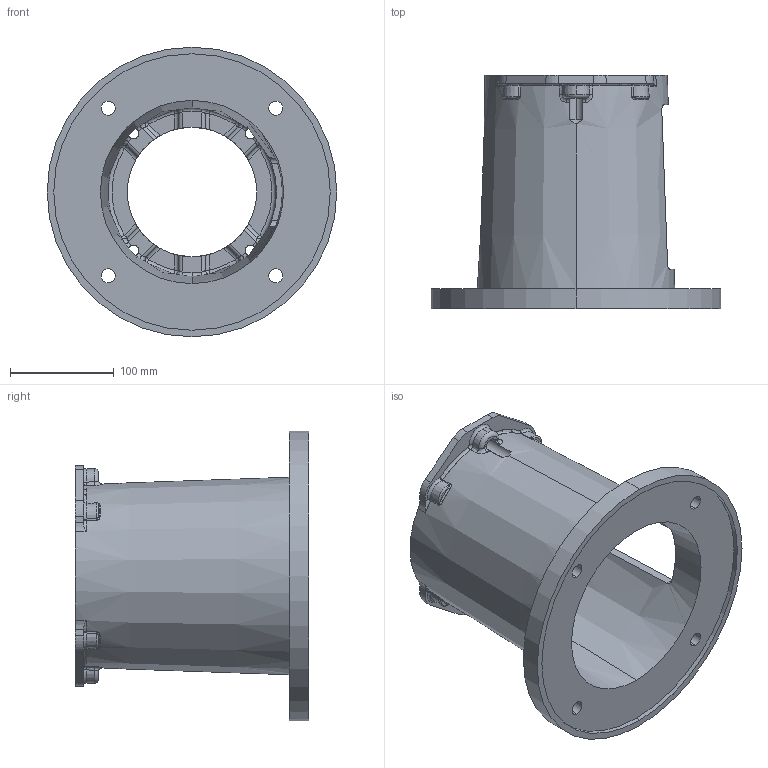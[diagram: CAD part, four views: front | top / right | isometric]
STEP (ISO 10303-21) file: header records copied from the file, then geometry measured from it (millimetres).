
FILE_DESCRIPTION (( 'STEP AP203' ), '1' );
FILE_NAME ('M28486125M.STEP', '2015-01-19T16:37:12', ( '' ), ( '' ), 'SwSTEP 2.0', 'SolidWorks 2014', '' );
FILE_SCHEMA (( 'CONFIG_CONTROL_DESIGN' ));
Length unit declared in the file: inch
Products named in the file (1): M28486125M
Bounding box: 279.4 x 225.3 x 279.4 mm (x, y, z)
Volume: 1456353.2 mm3; surface area: 345552.7 mm2
Topology: 1 solids, 1 shells, 321 faces, 855 edges, 512 vertices
Faces by surface type: cylinder 86, torus 76, bspline 64, plane 50, sphere 24, cone 21
Entity records: 14150 total; most frequent: CARTESIAN_POINT 6755, ORIENTED_EDGE 1670, DIRECTION 1435, EDGE_CURVE 835, AXIS2_PLACEMENT_3D 642, VERTEX_POINT 512, CIRCLE 384, EDGE_LOOP 341
